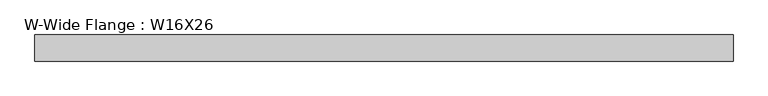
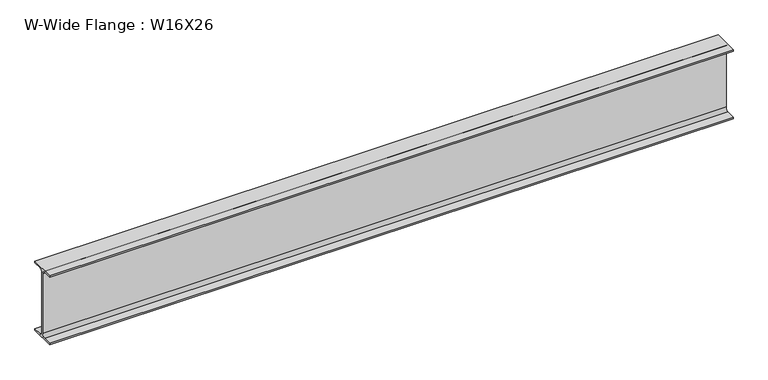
"""IFC4 building model written with IfcOpenShell, lengths in millimetres: beam geometry, W-Wide Flange : W16X26."""

from ifc_helpers import new_model, si_unit, point, frame, frame_2d, origin, place, context, project, spatial, polyline, circle_curve, trimmed, segment, composite_curve, outline, extrude, source, transform, mapped, element, save


def w_wide_flange_w16x26_0b9ed303(model_context):
    return source(origin(), model_context, "Body", "SweptSolid", [
        extrude(outline(composite_curve([segment(polyline([(69.85, -190.5496094), (69.85, -199.2808594), (-69.85, -199.2808594), (-69.85, -190.5496094), (-21.43125, -190.5496094)]), True, "CONTINUOUS"), segment(trimmed(circle_curve(frame_2d((-21.43125, -172.2933594)), 18.25625), [point((-21.43125, -190.5496094))], [point((-3.175, -172.2933594))], True, "CARTESIAN"), True, "CONTINUOUS"), segment(polyline([(-3.175, -172.2933594), (-3.175, 172.2933594)]), True, "CONTINUOUS"), segment(trimmed(circle_curve(frame_2d((-21.43125, 172.2933594)), 18.25625), [point((-3.175, 172.2933594))], [point((-21.43125, 190.5496094))], True, "CARTESIAN"), True, "CONTINUOUS"), segment(polyline([(-21.43125, 190.5496094), (-69.85, 190.5496094), (-69.85, 199.2808594), (69.85, 199.2808594), (69.85, 190.5496094), (21.43125, 190.5496094)]), True, "CONTINUOUS"), segment(trimmed(circle_curve(frame_2d((21.43125, 172.2933594)), 18.25625), [point((21.43125, 190.5496094))], [point((3.175, 172.2933594))], True, "CARTESIAN"), True, "CONTINUOUS"), segment(polyline([(3.175, 172.2933594), (3.175, -172.2933594)]), True, "CONTINUOUS"), segment(trimmed(circle_curve(frame_2d((21.43125, -172.2933594)), 18.25625), [point((3.175, -172.2933594))], [point((21.43125, -190.5496094))], True, "CARTESIAN"), True, "CONTINUOUS"), segment(polyline([(21.43125, -190.5496094), (69.85, -190.5496094)]), True, "CONTINUOUS")], self_intersect=False)), frame((-1861.3327257, 0.0, 0.0), z_axis=(1.0, 0.0, 0.0), x_axis=(0.0, 1.0, 0.0)), (0.0, 0.0, 1.0), 3733.8373991),
    ])


if __name__ == "__main__":
    model = new_model("IFC4")
    model_context = context("Model", 3, world=origin())
    ifc_project = project(units=[si_unit("LENGTHUNIT", "METRE", prefix="MILLI")], contexts=[model_context])
    site = spatial("IfcSite", under=ifc_project)
    building = spatial("IfcBuilding", under=site)
    placement = place(None, origin())
    w_wide_flange_w16x26_shape = w_wide_flange_w16x26_0b9ed303(model_context)
    element("IfcBeam", 1, ObjectType="W-Wide Flange : W16X26", at=placement, inside=building, context=model_context, shape_type="MappedRepresentation", body=[
        mapped(w_wide_flange_w16x26_shape, transform((0.0, 0.0, 0.0), x_axis=(1.0, 0.0, 0.0), y_axis=(0.0, 1.0, 0.0), z_axis=(0.0, 0.0, 1.0))),
    ])
    save(model, "model.ifc")
